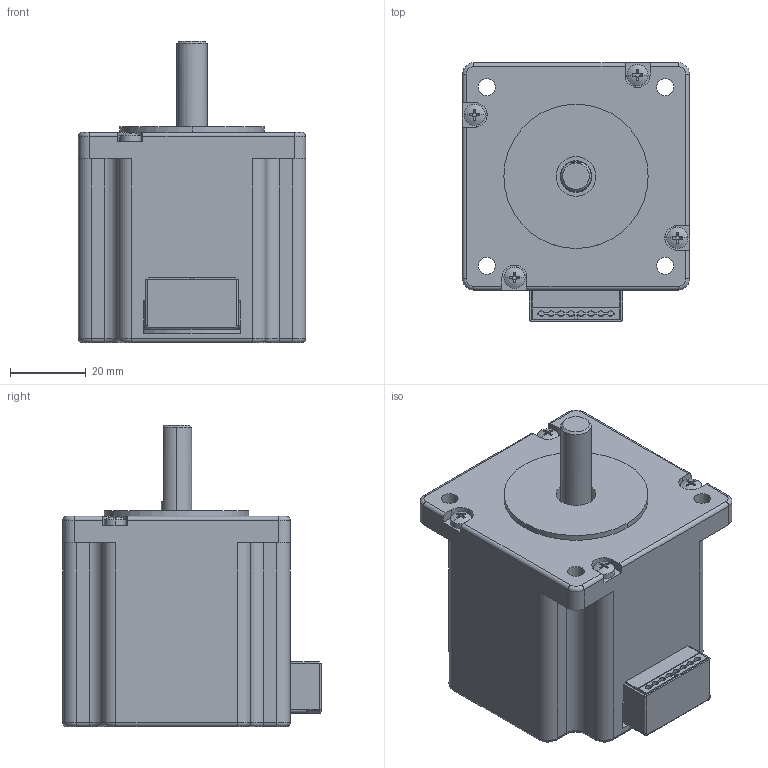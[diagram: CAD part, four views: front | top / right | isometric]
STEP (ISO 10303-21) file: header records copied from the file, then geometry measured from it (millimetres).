
FILE_DESCRIPTION((''),'2;1');
FILE_NAME('3_1_01_060_0013_SW0002','2018-01-05T16:29:04',('guhaibo'),(''),'CREO PARAMETRIC BY PTC INC, 2017110','CREO PARAMETRIC BY PTC INC, 2017110','');
FILE_SCHEMA(('CONFIG_CONTROL_DESIGN'));
Products named in the file (1): 3_1_01_060_0013_SW0002
Bounding box: 60 x 68.15 x 79.5 mm (x, y, z)
Volume: 102111.7 mm3; surface area: 72298.1 mm2
Topology: 2 solids, 2 shells, 1990 faces, 6067 edges, 3904 vertices
Faces by surface type: plane 1208, cylinder 712, torus 42, bspline 16, sphere 8, cone 4
Entity records: 69488 total; most frequent: CARTESIAN_POINT 13314, ORIENTED_EDGE 12134, DIRECTION 11835, EDGE_CURVE 6067, VECTOR 4159, LINE 4159, VERTEX_POINT 3904, AXIS2_PLACEMENT_3D 3838
